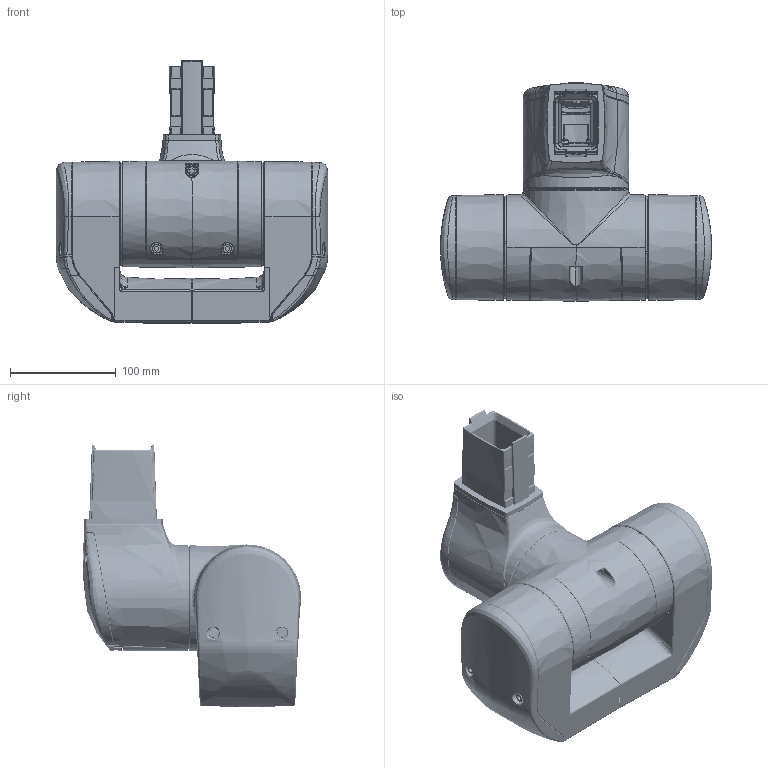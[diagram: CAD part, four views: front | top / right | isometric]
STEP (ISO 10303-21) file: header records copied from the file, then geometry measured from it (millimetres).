
FILE_DESCRIPTION((''),'2;1');
FILE_NAME('1017300070','2018-11-06T12:23:30',('Melanie.Fehring'),(''),'CREO PARAMETRIC BY PTC INC, 2017260','CREO PARAMETRIC BY PTC INC, 2017260','');
FILE_SCHEMA(('AUTOMOTIVE_DESIGN { 1 0 10303 214 1 1 1 1 }'));
Length unit declared in the file: millimetre
Products named in the file (1): 1017300070
Bounding box: 256.4 x 206.33 x 248 mm (x, y, z)
Surface area: 513412.3 mm2 (no closed solid volume)
Topology: 0 solids, 133 shells, 3690 faces, 10252 edges, 6567 vertices
Faces by surface type: plane 956, cylinder 896, bspline 895, cone 570, torus 264, sphere 92, extrusion 17
Entity records: 229703 total; most frequent: CARTESIAN_POINT 87527, ORIENTED_EDGE 17931, DIRECTION 16063, PRESENTATION_STYLE_ASSIGNMENT 13838, STYLED_ITEM 10252, CURVE_STYLE 10187, EDGE_CURVE 10170, VERTEX_POINT 6567
